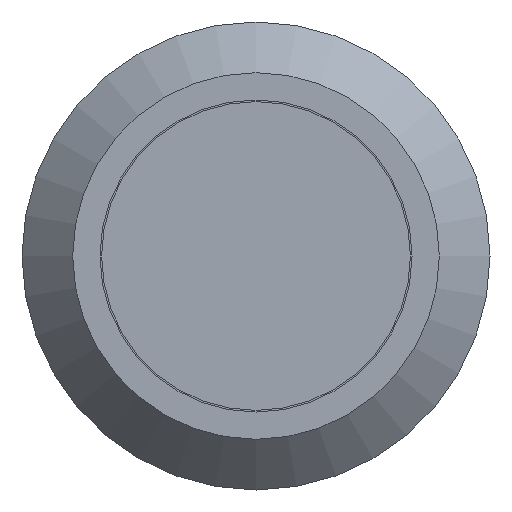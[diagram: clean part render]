
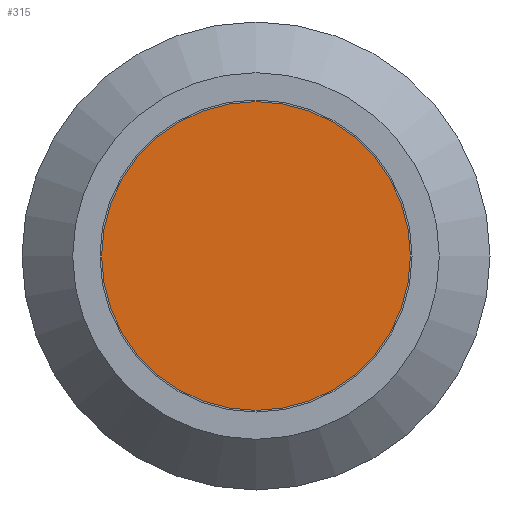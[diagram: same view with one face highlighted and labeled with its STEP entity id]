
A CAD part, front view. The second image highlights one B-rep face of the part: STEP entity #315.
In plain terms, the highlighted planar face has unit normal (0, -1, 0).
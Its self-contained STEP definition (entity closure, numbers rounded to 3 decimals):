
#96=ORIENTED_EDGE('',*,*,#164,.T.);
#164=EDGE_CURVE('',#202,#202,#223,.T.);
#202=VERTEX_POINT('',#512);
#223=CIRCLE('',#357,1.98);
#246=EDGE_LOOP('',(#96));
#276=FACE_BOUND('',#246,.T.);
#294=PLANE('',#358);
#315=ADVANCED_FACE('',(#276),#294,.F.);
#357=AXIS2_PLACEMENT_3D('',#511,#416,#417);
#358=AXIS2_PLACEMENT_3D('',#513,#418,#419);
#416=DIRECTION('',(0.,-1.,0.));
#417=DIRECTION('',(0.,0.,-1.));
#418=DIRECTION('',(0.,1.,0.));
#419=DIRECTION('',(0.,0.,1.));
#511=CARTESIAN_POINT('',(0.,0.,0.));
#512=CARTESIAN_POINT('',(0.,0.,-1.98));
#513=CARTESIAN_POINT('',(1.98,0.,0.));
